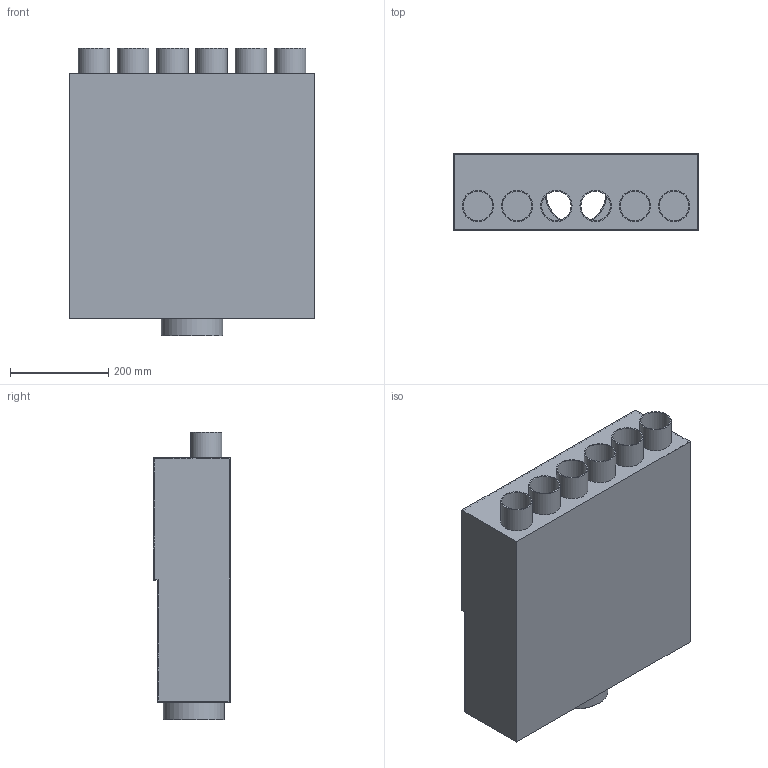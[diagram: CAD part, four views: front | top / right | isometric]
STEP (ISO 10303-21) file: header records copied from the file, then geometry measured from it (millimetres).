
FILE_DESCRIPTION(/* description */ (''),/* implementation_level */ '2;1');
FILE_NAME(/* name */ 'Z:\Output\FRS-VK_6-63_125-09355-001.stp',/* time_stamp */ '2017-09-13T14:06:16+02:00',/* author */ ('Engineering1'),/* organization */ (''),/* preprocessor_version */ 'ST-DEVELOPER v16.5',/* originating_system */ 'Autodesk Inventor 2017',/* authorisation */ '');
FILE_SCHEMA (('AUTOMOTIVE_DESIGN { 1 0 10303 214 3 1 1 }'));
Length unit declared in the file: millimetre
Products named in the file (1): FRS-VK_63
Bounding box: 500 x 157.6 x 587 mm (x, y, z)
Volume: 1696006.2 mm3; surface area: 1699060.4 mm2
Topology: 1 solids, 1 shells, 37 faces, 78 edges, 52 vertices
Faces by surface type: plane 23, cylinder 14
Full cylindrical faces by diameter (mm): 60 x6, 64 x6, 121 x1, 125 x1
Entity records: 984 total; most frequent: DIRECTION 168, CARTESIAN_POINT 154, ORIENTED_EDGE 128, EDGE_LOOP 72, AXIS2_PLACEMENT_3D 66, EDGE_CURVE 64, VERTEX_POINT 52, FACE_OUTER_BOUND 37
